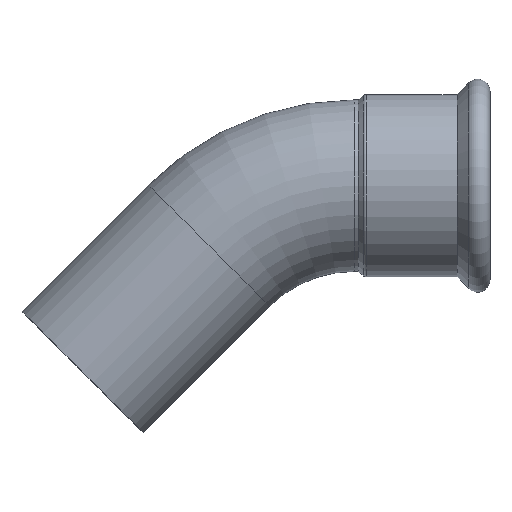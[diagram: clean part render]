
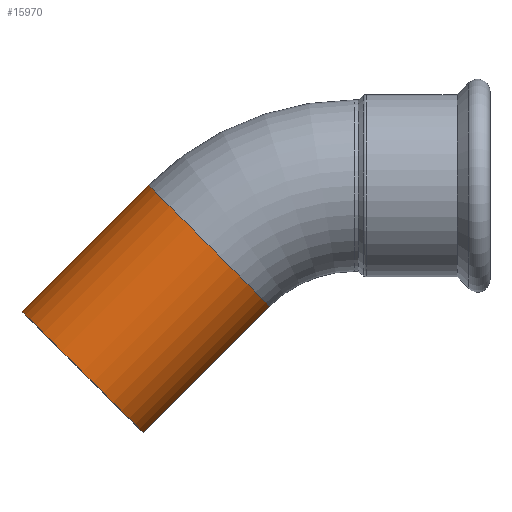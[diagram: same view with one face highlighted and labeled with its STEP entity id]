
A CAD part, top view. The second image highlights one B-rep face of the part: STEP entity #15970.
In plain terms, the highlighted cylindrical face has radius 38.05 mm (diameter 76.1 mm), a partial arc.
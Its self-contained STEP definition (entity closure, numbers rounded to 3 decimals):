
#13540=CARTESIAN_POINT('',(-61.653,-26.653,0.));
#13550=DIRECTION('',(0.707,0.707,0.));
#13560=DIRECTION('',(-0.707,0.707,0.));
#13570=AXIS2_PLACEMENT_3D('',#13540,#13550,#13560);
#13580=CYLINDRICAL_SURFACE('',#13570,38.05);
#13590=CARTESIAN_POINT('',(-34.748,-53.559,
0.));
#13600=DIRECTION('',(0.707,0.707,0.));
#13610=VECTOR('',#13600,1.);
#13620=LINE('',#13590,#13610);
#13630=CARTESIAN_POINT('',(-90.826,-109.637,
0.));
#13640=VERTEX_POINT('',#13630);
#13650=CARTESIAN_POINT('',(-34.748,-53.559,
0.));
#13660=VERTEX_POINT('',#13650);
#13670=EDGE_CURVE('',#13640,#13660,#13620,.T.);
#13690=CARTESIAN_POINT('',(-61.653,-26.653,0.));
#13700=DIRECTION('',(0.707,0.707,0.));
#13710=DIRECTION('',(-0.707,0.707,0.));
#13720=AXIS2_PLACEMENT_3D('',#13690,#13700,#13710);
#13730=CIRCLE('',#13720,38.05);
#13740=CARTESIAN_POINT('',(-88.559,0.252,0.));
#13750=VERTEX_POINT('',#13740);
#13780=CARTESIAN_POINT('',(-88.559,0.252,0.));
#13790=DIRECTION('',(0.707,0.707,0.));
#13800=VECTOR('',#13790,1.);
#13810=LINE('',#13780,#13800);
#13820=CARTESIAN_POINT('',(-144.637,-55.826,0.));
#13830=VERTEX_POINT('',#13820);
#13840=EDGE_CURVE('',#13830,#13750,#13810,.T.);
#13860=CARTESIAN_POINT('',(-117.731,-82.731,0.));
#13870=DIRECTION('',(0.707,0.707,0.));
#13880=DIRECTION('',(-0.707,0.707,0.));
#13890=AXIS2_PLACEMENT_3D('',#13860,#13870,#13880);
#13900=CIRCLE('',#13890,38.05);
#14730=EDGE_CURVE('',#13830,#13640,#13900,.T.);
#15400=EDGE_CURVE('',#13750,#13660,#13730,.T.);
#15910=ORIENTED_EDGE('',*,*,#15400,.F.);
#15920=ORIENTED_EDGE('',*,*,#13670,.T.);
#15930=ORIENTED_EDGE('',*,*,#14730,.T.);
#15940=ORIENTED_EDGE('',*,*,#13840,.F.);
#15950=EDGE_LOOP('',(#15940,#15930,#15920,#15910));
#15960=FACE_OUTER_BOUND('',#15950,.T.);
#15970=ADVANCED_FACE('',(#15960),#13580,.T.);
